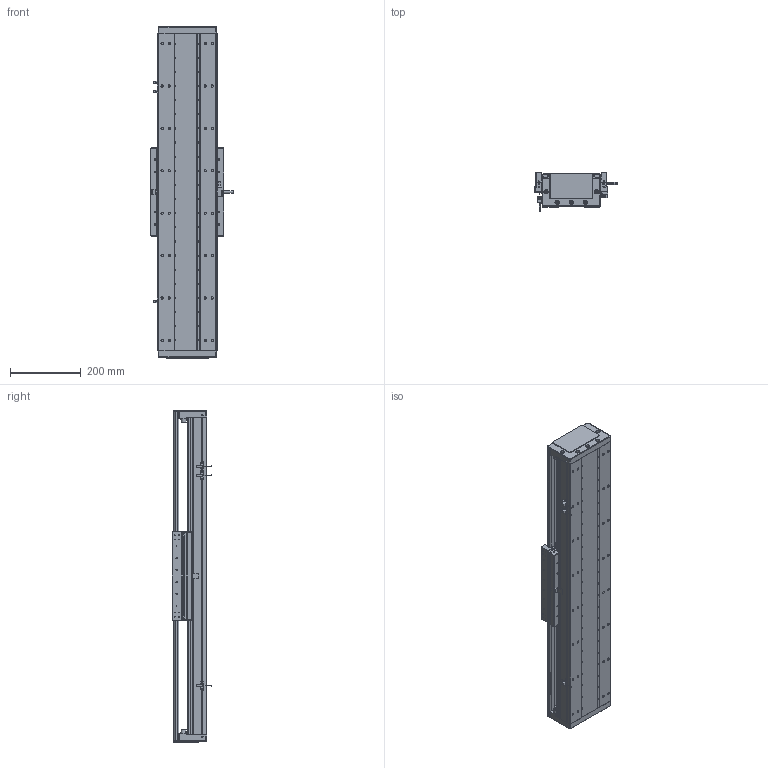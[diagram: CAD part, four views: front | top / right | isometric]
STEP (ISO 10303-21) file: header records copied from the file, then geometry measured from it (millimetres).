
FILE_DESCRIPTION (( 'STEP AP203' ), '1' );
FILE_NAME ('DA-C165-C3-T600-C010-0.2 直线电机.STEP', '2023-06-13T08:40:14', ( '微软用户' ), ( '微软中国' ), 'SwSTEP 2.0', 'SolidWorks 2019', '' );
FILE_SCHEMA (( 'CONFIG_CONTROL_DESIGN' ));
Length unit declared in the file: millimetre
Products named in the file (15): 复件 DA165-GYP-00 光电感应片^DA-C165-C3-T-C010-0.2-N 直线电机; 复件 DA95-HXJ-00 缓冲橡胶^DA-C165-C3-T-C010-0.2-N 直线电机; 复件 DMA-010-0.2 读数头^DA-C165-C3-T-C010-0.2-N 直线电机; 复件 DA165-DG-H-N-00 端盖^DA-C165-C3-T-C010-0.2-N 直线电机; 葩璃 CKM03-W075-C1C2-TP-3.0^DA-C165-C3-T-C010-0.2-N 眻盄萇儂; 珨极趙賑雄怢啣C3-wf; 葩璃 CKM01-W075-TRL^DA-C165-C3-T-C010-0.2-N 眻盄萇儂; 复件 XD-U-02L 磁栅尺^DA-C165-C3-T-C010-0.2-N 直线电机_T; 复件 CU165 底座^IU-CU165-L 底座导轨_L900; DA-C165-C3-T600-C010-0.2 眻盄萇儂; 复件 DA165-T-002-00 盖板^DA-C165-C3-T-C010-0.2-N 直线电机_0840-002-00; IU-CU165-L 菁釱絳寢; 葩璃 PM-T45^DA-C165-C3-T-C010-0.2-N 眻盄萇儂; 葩璃 DA95-GT-T-00^IU-CU165-L 菁釱絳寢_T; 复件 六角薄螺母 M3^DA-C165-C3-T-C010-0.2-N 直线电机_GB_FASTENER_NUT_STNAB M3-C
Assembly tree (30 placements, depth 3):
  DA-C165-C3-T600-C010-0.2 眻盄萇儂
    IU-CU165-L 菁釱絳寢
      复件 CU165 底座^IU-CU165-L 底座导轨_L900
      葩璃 DA95-GT-T-00^IU-CU165-L 菁釱絳寢_T  x4
    复件 DA165-DG-H-N-00 端盖^DA-C165-C3-T-C010-0.2-N 直线电机  x2
    复件 DA95-HXJ-00 缓冲橡胶^DA-C165-C3-T-C010-0.2-N 直线电机  x4
    复件 DA165-T-002-00 盖板^DA-C165-C3-T-C010-0.2-N 直线电机_0840-002-00
    复件 XD-U-02L 磁栅尺^DA-C165-C3-T-C010-0.2-N 直线电机_T
    葩璃 PM-T45^DA-C165-C3-T-C010-0.2-N 眻盄萇儂  x3
    葩璃 CKM01-W075-TRL^DA-C165-C3-T-C010-0.2-N 眻盄萇儂
    复件 DA165-GYP-00 光电感应片^DA-C165-C3-T-C010-0.2-N 直线电机
    复件 DMA-010-0.2 读数头^DA-C165-C3-T-C010-0.2-N 直线电机
    葩璃 CKM03-W075-C1C2-TP-3.0^DA-C165-C3-T-C010-0.2-N 眻盄萇儂
    复件 六角薄螺母 M3^DA-C165-C3-T-C010-0.2-N 直线电机_GB_FASTENER_NUT_STNAB M3-C  x8
    珨极趙賑雄怢啣C3-wf
Bounding box: 233 x 111.45 x 940 mm (x, y, z)
Volume: 7643142.3 mm3; surface area: 2001192.1 mm2
Topology: 68 solids, 118 shells, 3495 faces, 9296 edges, 5752 vertices
Faces by surface type: cylinder 1714, plane 1171, cone 552, torus 54, sphere 4
Entity records: 102349 total; most frequent: CARTESIAN_POINT 23858, DIRECTION 16338, ORIENTED_EDGE 15646, EDGE_CURVE 7823, AXIS2_PLACEMENT_3D 6182, VERTEX_POINT 5040, VECTOR 3974, LINE 3974
